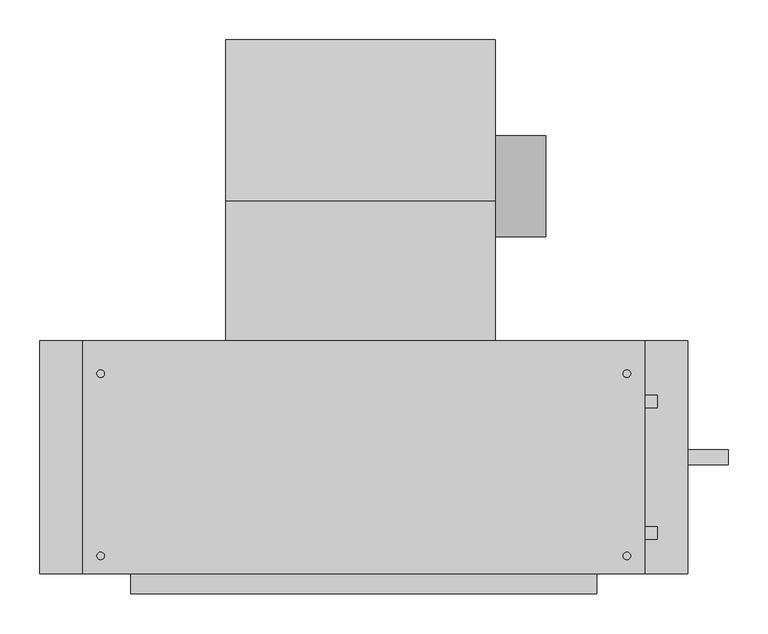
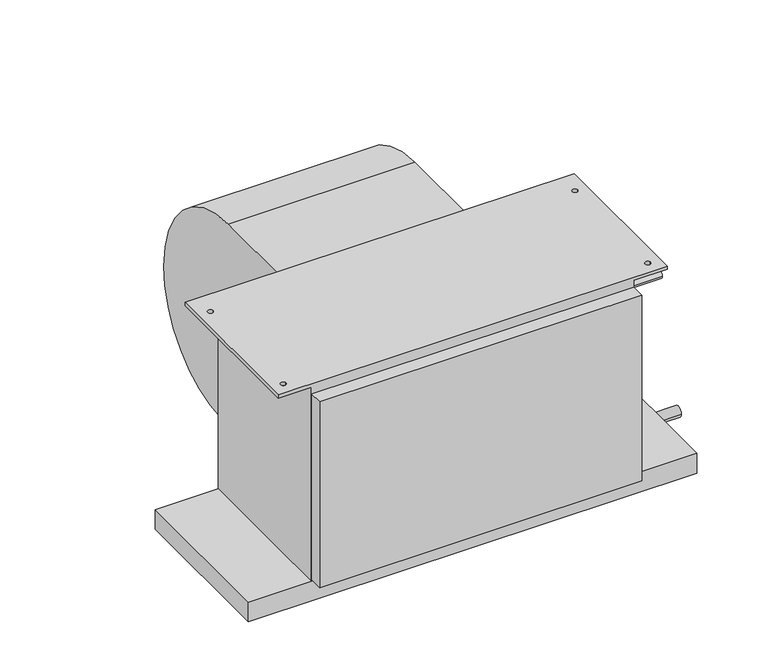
"""IFC4 building model written with IfcOpenShell, lengths in millimetres: proxy geometry, Concealed_High_Capacity_Horizontal_Fan_Coil_Unit_-_42DAA_-_CARRIER_-_2-Pipe_Cool-EHeat_RH_2022 : Size 10 - 277v/60Hz/1Ph - 6 Row 7.0kW."""

from ifc_helpers import new_model, si_unit, point, frame, frame_2d, origin, place, context, project, spatial, polyline, circle_curve, trimmed, segment, composite_curve, outline, extrude, source, transform, mapped, element, save
from ifc_brep_helpers import plane_surface, cylinder_surface, revolved_surface, advanced_brep


def mechanical_equipment_5b2d4382(model_context):
    return source(origin(), model_context, "Body", "SolidModel", [
        extrude(outline(composite_curve([segment(trimmed(circle_curve(frame_2d((102.0007598, -206.8897468)), 63.5), [point((165.5007598, -206.8897468))], [point((38.5007598, -206.8897468))], False, "CARTESIAN"), True, "CONTINUOUS"), segment(trimmed(circle_curve(frame_2d((102.0007598, -206.8897468)), 63.5), [point((38.5007598, -206.8897468))], [point((165.5007598, -206.8897468))], False, "CARTESIAN"), True, "CONTINUOUS")], self_intersect=False)), frame((317.5, 0.0, 0.0), z_axis=(1.0, 0.0, 0.0), x_axis=(0.0, 1.0, 0.0)), (0.0, 0.0, 1.0), 63.5),
        advanced_brep(
        [(-20.574, 285.5155957, -222.029602), (-20.574, 104.6226, -403.64664), (-20.574, -50.9016, -277.10638), (-20.574, -92.075, -277.10638), (-20.574, -92.075, -19.05), (-20.574, 83.0080093, -19.05), (317.5, 285.5155957, -222.029602), (317.5, 83.0080093, -19.05), (317.5, -92.075, -19.05), (317.5, -92.075, -277.10638), (317.5, -50.9016, -277.10638), (317.5, 104.622599, -403.6457839)],
        [
            (0, 1, circle_curve(frame((-20.574, 104.44226, -222.57258), z_axis=(-1.0, 0.0, 0.0), x_axis=(0.0, -1.0, 0.0)), 181.0741498)),
            (1, 2, circle_curve(frame((-20.574, 104.44226, -245.02364), z_axis=(-1.0, 0.0, 0.0), x_axis=(0.0, -1.0, 0.0)), 158.6222464)),
            (2, 3),
            (3, 4),
            (4, 5),
            (5, 0, circle_curve(frame((-20.574, 81.9912, -222.57258), z_axis=(-1.0, 0.0, 0.0), x_axis=(0.0, -1.0, 0.0)), 203.52512)),
            (6, 7, circle_curve(frame((317.5, 81.9912, -222.57258), z_axis=(1.0, 0.0, 0.0), x_axis=(0.0, -1.0, 0.0)), 203.52512)),
            (7, 8),
            (8, 9),
            (9, 10),
            (10, 11, circle_curve(frame((317.5, 104.44226, -245.02364), z_axis=(1.0, 0.0, 0.0), x_axis=(0.0, -1.0, 0.0)), 158.6222464)),
            (11, 6, circle_curve(frame((317.5, 104.44226, -222.57258), z_axis=(1.0, 0.0, 0.0), x_axis=(0.0, -1.0, 0.0)), 181.0741498)),
            (0, 6),
            (11, 1),
            (10, 2),
            (9, 3),
            (8, 4),
            (7, 5),
        ],
        [
            plane_surface(frame((-20.574, -76.6318898, -222.57258), z_axis=(-1.0, 0.0, 0.0), x_axis=(0.0, 0.0, 1.0))),
            plane_surface(frame((317.5, -76.6318898, -222.57258), z_axis=(1.0, 0.0, 0.0), x_axis=(0.0, 0.0, -1.0))),
            cylinder_surface(frame((317.5, 104.44226, -222.57258), z_axis=(-1.0, 0.0, 0.0), x_axis=(0.0, -1.0, 0.0)), 181.0741498),
            cylinder_surface(frame((317.5, 104.44226, -245.02364), z_axis=(-1.0, 0.0, 0.0), x_axis=(0.0, -1.0, 0.0)), 158.6222464),
            plane_surface(frame((-20.574, -50.9016, -277.10638), z_axis=(0.0, 0.0, -1.0), x_axis=(1.0, 0.0, 0.0))),
            plane_surface(frame((-20.574, -92.075, -277.10638), z_axis=(0.0, -1.0, 0.0), x_axis=(1.0, 0.0, 0.0))),
            plane_surface(frame((-20.574, -92.075, -19.05), z_axis=(0.0, 0.0, 1.0), x_axis=(1.0, 0.0, 0.0))),
            cylinder_surface(frame((317.5, 81.9912, -222.57258), z_axis=(-1.0, 0.0, 0.0), x_axis=(0.0, -1.0, 0.0)), 203.52512),
        ],
        [
            (0, [[1, 2, 3, 4, 5, 6]]),
            (1, [[7, 8, 9, 10, 11, 12]]),
            (2, [[-1, 13, -12, 14]]),
            (3, [[-2, -14, -11, 15]]),
            (4, [[-3, -15, -10, 16]]),
            (5, [[-4, -16, -9, 17]]),
            (6, [[-5, -17, -8, 18]]),
            (7, [[-6, -18, -7, -13]]),
        ],
    ),
        advanced_brep(
        [(444.5, -92.075, -377.825), (444.5, -384.175, -377.825), (-139.7, -384.175, -377.825), (-139.7, -92.075, -377.825), (-139.7, -384.175, -6.35), (-139.7, -92.075, -6.35), (444.5, -92.075, -6.35), (444.5, -384.175, -6.35), (504.825, -92.075, -6.35), (504.825, -384.175, -6.35), (477.8375, -133.35, -6.35), (487.3625, -133.35, -6.35), (477.8375, -361.95, -6.35), (487.3625, -361.95, -6.35), (-200.025, -92.075, -6.35), (-200.025, -384.175, -6.35), (-182.5625, -133.35, -6.35), (-173.0375, -133.35, -6.35), (-182.5625, -361.95, -6.35), (-173.0375, -361.95, -6.35), (504.825, -384.175, 0.0), (504.825, -92.075, 0.0), (-200.025, -92.075, 0.0), (-200.025, -384.175, 0.0), (-173.0375, -133.35, 0.0), (-182.5625, -133.35, 0.0), (-173.0375, -361.95, 0.0), (-182.5625, -361.95, 0.0), (487.3625, -133.35, 0.0), (477.8375, -133.35, 0.0), (487.3625, -361.95, 0.0), (477.8375, -361.95, 0.0)],
        [
            (0, 1),
            (1, 2),
            (2, 3),
            (3, 0),
            (2, 4),
            (4, 5),
            (5, 3),
            (0, 6),
            (6, 7),
            (7, 1),
            (8, 9),
            (9, 7),
            (6, 8),
            (10, 11, circle_curve(frame((482.6, -133.35, -6.35), z_axis=(0.0, 0.0, 1.0), x_axis=(1.0, 0.0, 0.0)), 4.7625)),
            (11, 10, circle_curve(frame((482.6, -133.35, -6.35), z_axis=(0.0, 0.0, 1.0), x_axis=(1.0, 0.0, 0.0)), 4.7625)),
            (12, 13, circle_curve(frame((482.6, -361.95, -6.35), z_axis=(0.0, 0.0, 1.0), x_axis=(1.0, 0.0, 0.0)), 4.7625)),
            (13, 12, circle_curve(frame((482.6, -361.95, -6.35), z_axis=(0.0, 0.0, 1.0), x_axis=(1.0, 0.0, 0.0)), 4.7625)),
            (14, 5),
            (4, 15),
            (15, 14),
            (16, 17, circle_curve(frame((-177.8, -133.35, -6.35), z_axis=(0.0, 0.0, 1.0), x_axis=(1.0, 0.0, 0.0)), 4.7625)),
            (17, 16, circle_curve(frame((-177.8, -133.35, -6.35), z_axis=(0.0, 0.0, 1.0), x_axis=(1.0, 0.0, 0.0)), 4.7625)),
            (18, 19, circle_curve(frame((-177.8, -361.95, -6.35), z_axis=(0.0, 0.0, 1.0), x_axis=(1.0, 0.0, 0.0)), 4.7625)),
            (19, 18, circle_curve(frame((-177.8, -361.95, -6.35), z_axis=(0.0, 0.0, 1.0), x_axis=(1.0, 0.0, 0.0)), 4.7625)),
            (20, 21),
            (21, 22),
            (22, 23),
            (23, 20),
            (24, 25, circle_curve(frame((-177.8, -133.35, 0.0), z_axis=(0.0, 0.0, -1.0), x_axis=(1.0, 0.0, 0.0)), 4.7625)),
            (25, 24, circle_curve(frame((-177.8, -133.35, 0.0), z_axis=(0.0, 0.0, -1.0), x_axis=(1.0, 0.0, 0.0)), 4.7625)),
            (26, 27, circle_curve(frame((-177.8, -361.95, 0.0), z_axis=(0.0, 0.0, -1.0), x_axis=(1.0, 0.0, 0.0)), 4.7625)),
            (27, 26, circle_curve(frame((-177.8, -361.95, 0.0), z_axis=(0.0, 0.0, -1.0), x_axis=(1.0, 0.0, 0.0)), 4.7625)),
            (28, 29, circle_curve(frame((482.6, -133.35, 0.0), z_axis=(0.0, 0.0, -1.0), x_axis=(1.0, 0.0, 0.0)), 4.7625)),
            (29, 28, circle_curve(frame((482.6, -133.35, 0.0), z_axis=(0.0, 0.0, -1.0), x_axis=(1.0, 0.0, 0.0)), 4.7625)),
            (30, 31, circle_curve(frame((482.6, -361.95, 0.0), z_axis=(0.0, 0.0, -1.0), x_axis=(1.0, 0.0, 0.0)), 4.7625)),
            (31, 30, circle_curve(frame((482.6, -361.95, 0.0), z_axis=(0.0, 0.0, -1.0), x_axis=(1.0, 0.0, 0.0)), 4.7625)),
            (14, 22),
            (21, 8),
            (9, 20),
            (23, 15),
            (24, 17),
            (16, 25),
            (26, 19),
            (18, 27),
            (28, 11),
            (10, 29),
            (30, 13),
            (12, 31),
        ],
        [
            plane_surface(frame((-139.7, -92.075, -377.825), z_axis=(0.0, 0.0, -1.0), x_axis=(1.0, 0.0, 0.0))),
            plane_surface(frame((-139.7, -92.075, 0.0), z_axis=(-1.0, 0.0, 0.0), x_axis=(0.0, 0.0, -1.0))),
            plane_surface(frame((444.5, -384.175, 0.0), z_axis=(1.0, 0.0, 0.0), x_axis=(0.0, 0.0, -1.0))),
            plane_surface(frame((444.5, -92.075, -6.35), z_axis=(0.0, 0.0, -1.0), x_axis=(1.0, 0.0, 0.0))),
            plane_surface(frame((444.5, -92.075, 0.0), z_axis=(0.0, 0.0, 1.0), x_axis=(-1.0, 0.0, 0.0))),
            plane_surface(frame((504.825, -92.075, 0.0), z_axis=(0.0, 1.0, 0.0), x_axis=(0.0, 0.0, -1.0))),
            plane_surface(frame((444.5, -384.175, 0.0), z_axis=(0.0, -1.0, 0.0), x_axis=(0.0, 0.0, -1.0))),
            plane_surface(frame((504.825, -384.175, 0.0), z_axis=(1.0, 0.0, 0.0), x_axis=(0.0, 0.0, -1.0))),
            plane_surface(frame((-200.025, -92.075, 0.0), z_axis=(-1.0, 0.0, 0.0), x_axis=(0.0, 0.0, -1.0))),
            revolved_surface(polyline([(-173.03750000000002, -133.35, 0.0), (-173.03750000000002, -133.35, -6.35)]), (-177.8, -133.35, -6.35), (0.0, 0.0, 1.0)),
            revolved_surface(polyline([(-173.03750000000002, -361.95, 0.0), (-173.03750000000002, -361.95, -6.35)]), (-177.8, -361.95, 0.0), (0.0, 0.0, 1.0)),
            revolved_surface(polyline([(487.3625, -133.35, 0.0), (487.3625, -133.35, -6.35)]), (482.6, -133.35, 0.0), (0.0, 0.0, 1.0)),
            revolved_surface(polyline([(487.3625, -361.95, 0.0), (487.3625, -361.95, -6.35)]), (482.6, -361.95, 0.0), (0.0, 0.0, 1.0)),
        ],
        [
            (0, [[1, 2, 3, 4]]),
            (1, [[-3, 5, 6, 7]]),
            (2, [[-1, 8, 9, 10]]),
            (3, [[11, 12, -9, 13], [14, 15], [16, 17]]),
            (3, [[18, -6, 19, 20], [21, 22], [23, 24]]),
            (4, [[25, 26, 27, 28], [29, 30], [31, 32], [33, 34], [35, 36]]),
            (5, [[-13, -8, -4, -7, -18, 37, -26, 38]]),
            (6, [[-12, 39, -28, 40, -19, -5, -2, -10]]),
            (7, [[-11, -38, -25, -39]]),
            (8, [[-20, -40, -27, -37]]),
            (9, [[41, -21, 42, -29]]),
            (9, [[-41, -30, -42, -22]]),
            (10, [[43, -23, 44, -31]]),
            (10, [[-43, -32, -44, -24]]),
            (11, [[45, -14, 46, -33]]),
            (11, [[-45, -34, -46, -15]]),
            (12, [[47, -16, 48, -35]]),
            (12, [[-47, -36, -48, -17]]),
        ],
    ),
        extrude(outline(composite_curve([segment(trimmed(circle_curve(frame_2d((-238.125, -403.225)), 9.525), [point((-228.6, -403.225))], [point((-247.65, -403.225))], False, "CARTESIAN"), True, "CONTINUOUS"), segment(trimmed(circle_curve(frame_2d((-238.125, -403.225)), 9.525), [point((-247.65, -403.225))], [point((-228.6, -403.225))], False, "CARTESIAN"), True, "CONTINUOUS")], self_intersect=False)), frame((558.8, 0.0, 0.0), z_axis=(1.0, 0.0, 0.0), x_axis=(0.0, 1.0, 0.0)), (0.0, 0.0, 1.0), 50.8),
        extrude(outline(composite_curve([segment(trimmed(circle_curve(frame_2d((-333.375, -50.8)), 7.9375), [point((-325.4375, -50.8))], [point((-341.3125, -50.8))], False, "CARTESIAN"), True, "CONTINUOUS"), segment(trimmed(circle_curve(frame_2d((-333.375, -50.8)), 7.9375), [point((-341.3125, -50.8))], [point((-325.4375, -50.8))], False, "CARTESIAN"), True, "CONTINUOUS")], self_intersect=False)), frame((444.5, 0.0, 0.0), z_axis=(1.0, 0.0, 0.0), x_axis=(0.0, 1.0, 0.0)), (0.0, 0.0, 1.0), 76.2),
        extrude(outline(composite_curve([segment(trimmed(circle_curve(frame_2d((-168.275, -327.025)), 7.9375), [point((-160.3375, -327.025))], [point((-176.2125, -327.025))], False, "CARTESIAN"), True, "CONTINUOUS"), segment(trimmed(circle_curve(frame_2d((-168.275, -327.025)), 7.9375), [point((-176.2125, -327.025))], [point((-160.3375, -327.025))], False, "CARTESIAN"), True, "CONTINUOUS")], self_intersect=False)), frame((444.5, 0.0, 0.0), z_axis=(1.0, 0.0, 0.0), x_axis=(0.0, 1.0, 0.0)), (0.0, 0.0, 1.0), 76.2),
        extrude(outline(polyline([(444.5, -409.575), (-139.7, -409.575), (-139.7, -384.175), (444.5, -384.175), (444.5, -409.575)])), frame((0.0, 0.0, -374.65), z_axis=(0.0, 0.0, 1.0), x_axis=(1.0, 0.0, 0.0)), (0.0, 0.0, 1.0), 355.6),
        extrude(outline(polyline([(558.8, -92.075), (558.8, -384.175), (-254.0, -384.175), (-254.0, -92.075), (558.8, -92.075)])), frame((0.0, 0.0, -415.925), z_axis=(0.0, 0.0, 1.0), x_axis=(1.0, 0.0, 0.0)), (0.0, 0.0, 1.0), 38.1),
    ])


if __name__ == "__main__":
    model = new_model("IFC4")
    model_context = context("Model", 3, world=origin())
    ifc_project = project(units=[si_unit("LENGTHUNIT", "METRE", prefix="MILLI")], contexts=[model_context])
    site = spatial("IfcSite", under=ifc_project)
    building = spatial("IfcBuilding", under=site)
    placement = place(None, origin())
    mechanical_equipment_shape = mechanical_equipment_5b2d4382(model_context)
    element("IfcBuildingElementProxy", 1, Name="Concealed_High_Capacity_Horizontal_Fan_Coil_Unit_-_42DAA_-_CARRIER_-_2-Pipe_Cool-EHeat_RH_2022 : Size 10 - 277v/60Hz/1Ph - 6 Row 7.0kW", ObjectType="Concealed_High_Capacity_Horizontal_Fan_Coil_Unit_-_42DAA_-_CARRIER_-_2-Pipe_Cool-EHeat_RH_2022 : Size 10 - 277v/60Hz/1Ph - 6 Row 7.0kW", at=placement, inside=building, context=model_context, shape_type="MappedRepresentation", body=[
        mapped(mechanical_equipment_shape, transform((0.0, 0.0, 0.0), x_axis=(1.0, 0.0, 0.0), y_axis=(0.0, 1.0, 0.0), z_axis=(0.0, 0.0, 1.0))),
    ])
    save(model, "model.ifc")
